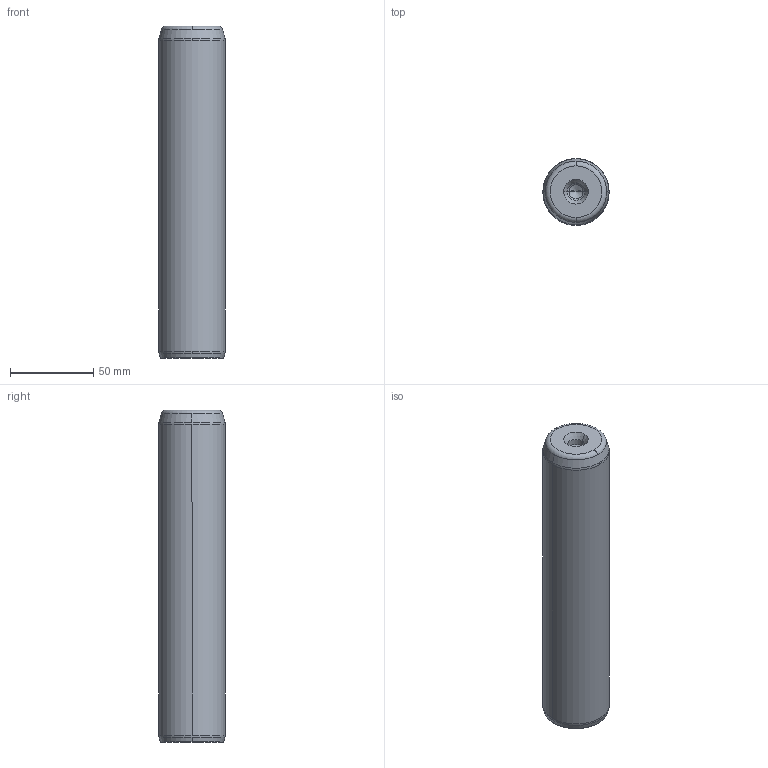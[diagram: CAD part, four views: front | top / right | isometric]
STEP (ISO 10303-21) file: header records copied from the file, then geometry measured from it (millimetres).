
FILE_DESCRIPTION((''),'2;1');
FILE_NAME('P10_040_200.stp','2008-12-23T15:24:05',(''),(''),'Mechanical Desktop 2009','Mechanical Desktop 2009',', , ');
FILE_SCHEMA(('CONFIG_CONTROL_DESIGN'));
Length unit declared in the file: millimetre
Products named in the file (5): Product; ProductAA; blmdl1; ProductA; blmdl1A
Assembly tree (2 placements, depth 3):
  Product
    ProductAA
      blmdl1
  ProductA
  blmdl1A
Bounding box: 40 x 40 x 200 mm (x, y, z)
Volume: 247823.3 mm3; surface area: 27976.5 mm2
Topology: 1 solids, 1 shells, 26 faces, 66 edges, 41 vertices
Faces by surface type: cone 10, torus 8, cylinder 6, plane 2
Entity records: 1012 total; most frequent: DIRECTION 170, CARTESIAN_POINT 134, ORIENTED_EDGE 128, AXIS2_PLACEMENT_3D 77, EDGE_CURVE 64, CIRCLE 48, VERTEX_POINT 41, EDGE_LOOP 27
